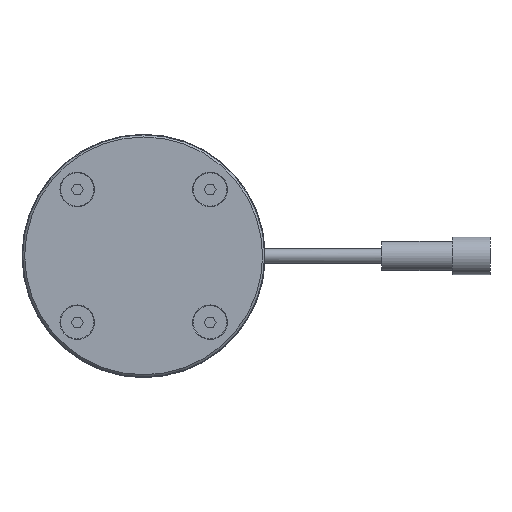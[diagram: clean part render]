
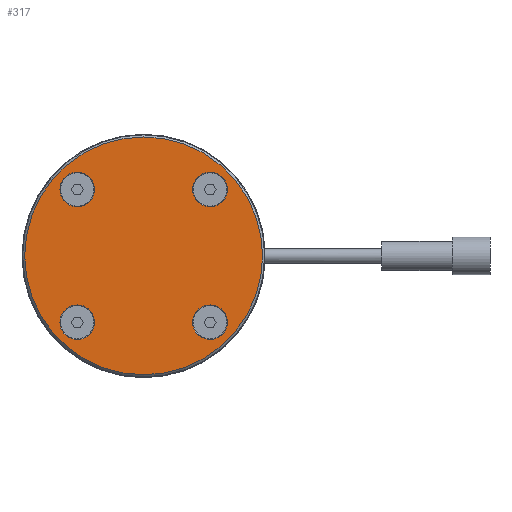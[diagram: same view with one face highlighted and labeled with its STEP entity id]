
A CAD part, top view. The second image highlights one B-rep face of the part: STEP entity #317.
In plain terms, the highlighted planar face has unit normal (0, 0, 1).
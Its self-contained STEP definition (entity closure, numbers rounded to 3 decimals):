
#317=ADVANCED_FACE('',(#786,#787,#788,#789,#790),#791,.F.);
#786=FACE_BOUND('',#1413,.T.);
#787=FACE_BOUND('',#1414,.T.);
#788=FACE_BOUND('',#1415,.T.);
#789=FACE_BOUND('',#1416,.T.);
#790=FACE_OUTER_BOUND('',#1417,.T.);
#791=PLANE('',#1418);
#1413=EDGE_LOOP('',(#2216));
#1414=EDGE_LOOP('',(#2217));
#1415=EDGE_LOOP('',(#2218));
#1416=EDGE_LOOP('',(#2219));
#1417=EDGE_LOOP('',(#2220));
#1418=AXIS2_PLACEMENT_3D('',#2221,#2222,#2223);
#2216=ORIENTED_EDGE('',*,*,#3075,.T.);
#2217=ORIENTED_EDGE('',*,*,#3070,.T.);
#2218=ORIENTED_EDGE('',*,*,#3065,.T.);
#2219=ORIENTED_EDGE('',*,*,#3080,.T.);
#2220=ORIENTED_EDGE('',*,*,#3148,.F.);
#2221=CARTESIAN_POINT('',(0.,-26.5,0.0));
#2222=DIRECTION('',(0.0,0.0,-1.0));
#2223=DIRECTION('',(0.,-1.0,0.0));
#3065=EDGE_CURVE('',#3531,#3531,#3532,.T.);
#3070=EDGE_CURVE('',#3539,#3539,#3540,.T.);
#3075=EDGE_CURVE('',#3547,#3547,#3548,.T.);
#3080=EDGE_CURVE('',#3555,#3555,#3556,.T.);
#3148=EDGE_CURVE('',#3653,#3653,#3654,.T.);
#3531=VERTEX_POINT('',#4211);
#3532=CIRCLE('',#4212,4.15);
#3539=VERTEX_POINT('',#4219);
#3540=CIRCLE('',#4220,4.15);
#3547=VERTEX_POINT('',#4227);
#3548=CIRCLE('',#4228,4.15);
#3555=VERTEX_POINT('',#4235);
#3556=CIRCLE('',#4236,4.15);
#3653=VERTEX_POINT('',#4349);
#3654=CIRCLE('',#4350,28.5);
#4211=CARTESIAN_POINT('',(-11.76,-15.91,0.0));
#4212=AXIS2_PLACEMENT_3D('',#5071,#5072,#5073);
#4219=CARTESIAN_POINT('',(20.06,-15.91,0.0));
#4220=AXIS2_PLACEMENT_3D('',#5080,#5081,#5082);
#4227=CARTESIAN_POINT('',(20.06,15.91,0.0));
#4228=AXIS2_PLACEMENT_3D('',#5089,#5090,#5091);
#4235=CARTESIAN_POINT('',(-11.76,15.91,0.0));
#4236=AXIS2_PLACEMENT_3D('',#5098,#5099,#5100);
#4349=CARTESIAN_POINT('',(0.,-28.5,0.0));
#4350=AXIS2_PLACEMENT_3D('',#5183,#5184,#5185);
#5071=CARTESIAN_POINT('',(-15.91,-15.91,0.0));
#5072=DIRECTION('',(0.0,0.0,-1.0));
#5073=DIRECTION('',(1.0,0.0,0.0));
#5080=CARTESIAN_POINT('',(15.91,-15.91,0.0));
#5081=DIRECTION('',(0.0,0.0,-1.0));
#5082=DIRECTION('',(1.0,0.0,0.0));
#5089=CARTESIAN_POINT('',(15.91,15.91,0.0));
#5090=DIRECTION('',(0.0,0.0,-1.0));
#5091=DIRECTION('',(1.0,0.0,0.0));
#5098=CARTESIAN_POINT('',(-15.91,15.91,0.0));
#5099=DIRECTION('',(0.0,0.0,-1.0));
#5100=DIRECTION('',(1.0,0.0,0.0));
#5183=CARTESIAN_POINT('',(0.0,0.0,0.0));
#5184=DIRECTION('',(0.0,0.0,-1.0));
#5185=DIRECTION('',(0.,-1.0,0.0));
